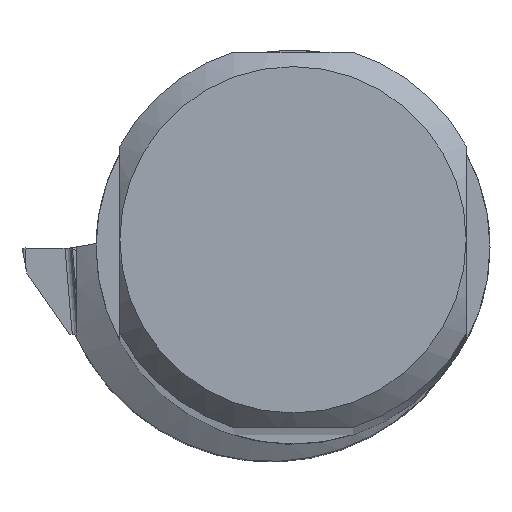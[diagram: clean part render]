
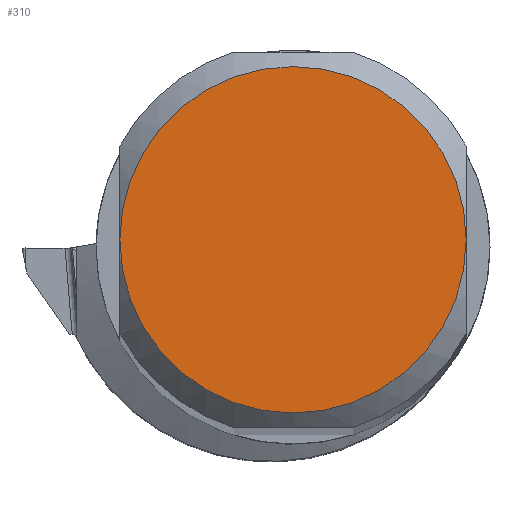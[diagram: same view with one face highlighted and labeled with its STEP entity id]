
A CAD part, top view. The second image highlights one B-rep face of the part: STEP entity #310.
In plain terms, the highlighted planar face has unit normal (0, 0, 1).
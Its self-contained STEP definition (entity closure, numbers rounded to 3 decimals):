
#196=FACE_OUTER_BOUND('',#531,.T.);
#310=ADVANCED_FACE('',(#196),#382,.T.);
#382=PLANE('',#1913);
#420=CIRCLE('',#1910,11.167);
#421=CIRCLE('',#1912,11.167);
#531=EDGE_LOOP('',(#937,#938));
#937=ORIENTED_EDGE('',*,*,#1403,.T.);
#938=ORIENTED_EDGE('',*,*,#1402,.T.);
#1174=VERTEX_POINT('',#2940);
#1178=VERTEX_POINT('',#2956);
#1402=EDGE_CURVE('',#1174,#1178,#420,.T.);
#1403=EDGE_CURVE('',#1178,#1174,#421,.T.);
#1910=AXIS2_PLACEMENT_3D('',#2957,#2323,#2324);
#1912=AXIS2_PLACEMENT_3D('',#2959,#2327,#2328);
#1913=AXIS2_PLACEMENT_3D('',#2960,#2329,#2330);
#2323=DIRECTION('',(0.,0.,1.));
#2324=DIRECTION('',(0.,-1.,0.));
#2327=DIRECTION('',(0.,0.,1.));
#2328=DIRECTION('',(0.,-1.,0.));
#2329=DIRECTION('',(0.,0.,1.));
#2330=DIRECTION('',(0.,1.,0.));
#2940=CARTESIAN_POINT('',(11.167,0.,0.));
#2956=CARTESIAN_POINT('',(-11.167,0.,0.));
#2957=CARTESIAN_POINT('',(0.,0.,0.));
#2959=CARTESIAN_POINT('',(0.,0.,0.));
#2960=CARTESIAN_POINT('',(0.,0.,0.));
